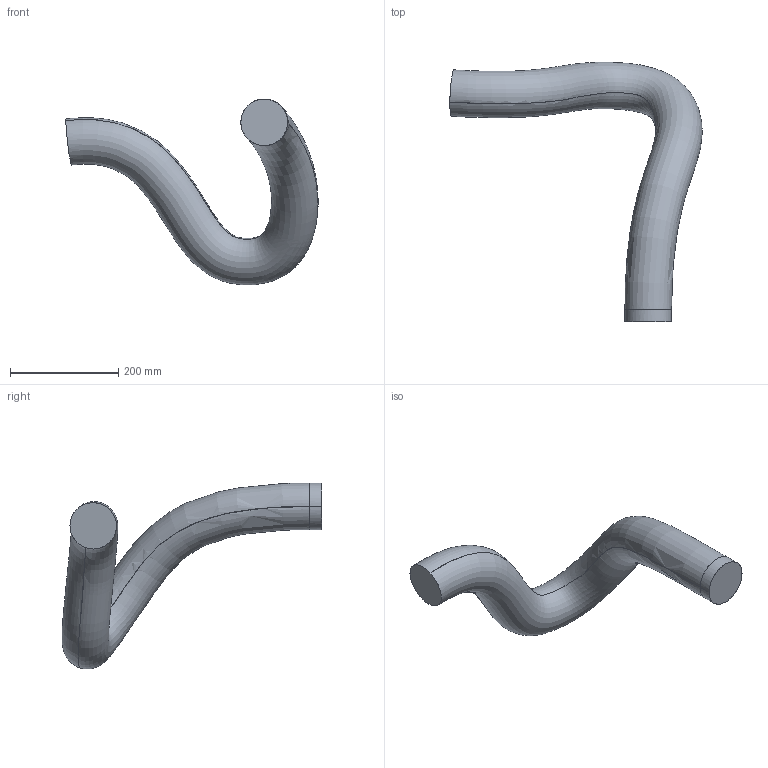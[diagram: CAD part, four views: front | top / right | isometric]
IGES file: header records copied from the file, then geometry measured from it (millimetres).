
Start section: SolidWorks IGES file using analytic representation for surfaces
Global section: file name: C:\Users\SEJAOLS6\OneDrive - ABB\Documents\SAP\7720\7720_Lightweight_models\IRB7720-LID-SW_480kg-310_OC_01_SW_J\IRB7720-LID-SW_480kg-310_OC_01_IGES_J\IRB7720_All-310_OC_00_LINK05_CABLE.igs; native system: SolidWorks 2024; preprocessor: SolidWorks 2024; author: SEJAOLS6; date: 260127.081343; units: millimetre
Bounding box: 465.41 x 479.44 x 343.08 mm (x, y, z)
Surface area: 286271.4 mm2 (no closed solid volume)
Topology: 0 solids, 0 shells, 6 faces, 144 edges, 144 vertices
Faces by surface type: bspline 4, revolution 2
